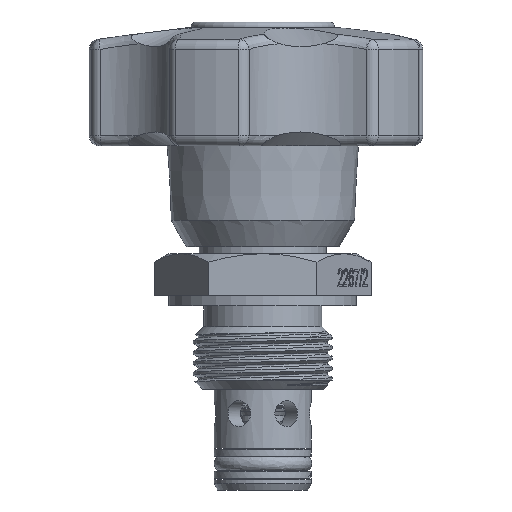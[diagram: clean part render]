
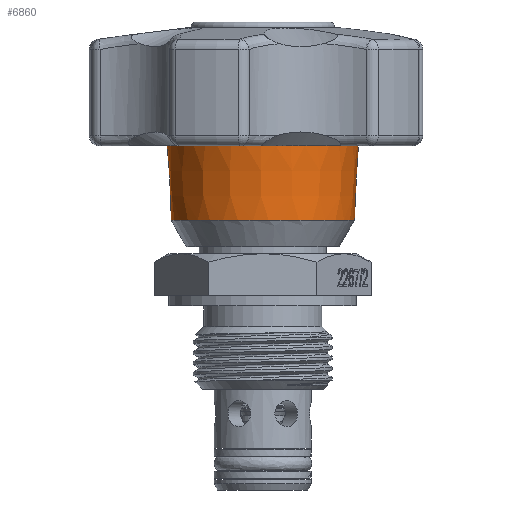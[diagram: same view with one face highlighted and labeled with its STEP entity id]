
A CAD part, left-side view. The second image highlights one B-rep face of the part: STEP entity #6860.
In plain terms, the highlighted conical face has half-angle 3 degrees and reference radius 13 mm.
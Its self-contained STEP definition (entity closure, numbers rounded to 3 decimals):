
#712 = AXIS2_PLACEMENT_3D ( 'NONE', #8282, #12605, #4222 ) ;
#714 = EDGE_CURVE ( 'NONE', #49633, #4186, #16927, .T. ) ;
#1931 = EDGE_CURVE ( 'NONE', #4186, #19687, #19416, .T. ) ;
#2051 = ORIENTED_EDGE ( 'NONE', *, *, #5599, .T. ) ;
#3096 = CIRCLE ( 'NONE', #12020, 13.76 ) ;
#4186 = VERTEX_POINT ( 'NONE', #34592 ) ;
#4222 = DIRECTION ( 'NONE',  ( 1., 0., 0. ) ) ;
#4840 = CARTESIAN_POINT ( 'NONE',  ( 0., 13.76, 17. ) ) ;
#5574 = AXIS2_PLACEMENT_3D ( 'NONE', #40978, #45043, #41228 ) ;
#5599 = EDGE_CURVE ( 'NONE', #42767, #26642, #3096, .T. ) ;
#6373 = CARTESIAN_POINT ( 'NONE',  ( 0., 0., 27.69 ) ) ;
#6860 = ADVANCED_FACE ( 'NONE', ( #39048 ), #21816, .T. ) ;
#8282 = CARTESIAN_POINT ( 'NONE',  ( 0., 0., 31.5 ) ) ;
#8673 = CARTESIAN_POINT ( 'NONE',  ( -13.086, 4.252, 17. ) ) ;
#10169 = CARTESIAN_POINT ( 'NONE',  ( 12.341, -6.085, 17. ) ) ;
#10316 = B_SPLINE_CURVE_WITH_KNOTS ( 'NONE', 3,
 ( #37023, #40106, #40608, #21043 ),
 .UNSPECIFIED., .F., .F.,
 ( 4, 4 ),
 ( 0.004, 0.015 ),
 .UNSPECIFIED. ) ;
#10676 = ORIENTED_EDGE ( 'NONE', *, *, #46951, .T. ) ;
#11506 = CARTESIAN_POINT ( 'NONE',  ( 0., 0., 17. ) ) ;
#12020 = AXIS2_PLACEMENT_3D ( 'NONE', #11506, #41522, #45843 ) ;
#12508 = DIRECTION ( 'NONE',  ( 1., 0., 0. ) ) ;
#12605 = DIRECTION ( 'NONE',  ( 0., 0., -1. ) ) ;
#13251 = CARTESIAN_POINT ( 'NONE',  ( 12.341, 6.085, 17. ) ) ;
#16704 = ORIENTED_EDGE ( 'NONE', *, *, #714, .T. ) ;
#16927 = CIRCLE ( 'NONE', #5574, 13.76 ) ;
#18934 = CIRCLE ( 'NONE', #22195, 13.2 ) ;
#19044 = AXIS2_PLACEMENT_3D ( 'NONE', #30984, #26941, #27182 ) ;
#19416 = CIRCLE ( 'NONE', #20213, 13.76 ) ;
#19629 = AXIS2_PLACEMENT_3D ( 'NONE', #34183, #38256, #12508 ) ;
#19687 = VERTEX_POINT ( 'NONE', #10169 ) ;
#20213 = AXIS2_PLACEMENT_3D ( 'NONE', #43587, #39773, #28347 ) ;
#21043 = CARTESIAN_POINT ( 'NONE',  ( 12.341, 6.085, 17. ) ) ;
#21816 = CONICAL_SURFACE ( 'NONE', #712, 13., 0.052 ) ;
#21883 = DIRECTION ( 'NONE',  ( 0., 0., -1. ) ) ;
#22195 = AXIS2_PLACEMENT_3D ( 'NONE', #6373, #21883, #37383 ) ;
#22601 = CARTESIAN_POINT ( 'NONE',  ( 12.341, -6.085, 17. ) ) ;
#23108 = CARTESIAN_POINT ( 'NONE',  ( 11.813, -6.299, 24.125 ) ) ;
#24554 = CIRCLE ( 'NONE', #19629, 13.76 ) ;
#26441 = ORIENTED_EDGE ( 'NONE', *, *, #34337, .T. ) ;
#26642 = VERTEX_POINT ( 'NONE', #4840 ) ;
#26941 = DIRECTION ( 'NONE',  ( 0., 0., 1. ) ) ;
#27068 = EDGE_CURVE ( 'NONE', #36740, #49633, #43382, .T. ) ;
#27129 = ORIENTED_EDGE ( 'NONE', *, *, #45053, .T. ) ;
#27182 = DIRECTION ( 'NONE',  ( 1., 0., 0. ) ) ;
#28347 = DIRECTION ( 'NONE',  ( 1., 0., 0. ) ) ;
#29368 = VERTEX_POINT ( 'NONE', #37790 ) ;
#30984 = CARTESIAN_POINT ( 'NONE',  ( 0., 0., 17. ) ) ;
#31987 = B_SPLINE_CURVE_WITH_KNOTS ( 'NONE', 3,
 ( #22601, #34772, #23108, #50277 ),
 .UNSPECIFIED., .F., .F.,
 ( 4, 4 ),
 ( 0., 0.011 ),
 .UNSPECIFIED. ) ;
#34183 = CARTESIAN_POINT ( 'NONE',  ( 0., 0., 17. ) ) ;
#34337 = EDGE_CURVE ( 'NONE', #19687, #42133, #31987, .T. ) ;
#34592 = CARTESIAN_POINT ( 'NONE',  ( 8.088, -11.132, 17. ) ) ;
#34772 = CARTESIAN_POINT ( 'NONE',  ( 12.066, -6.221, 20.561 ) ) ;
#36740 = VERTEX_POINT ( 'NONE', #8673 ) ;
#37023 = CARTESIAN_POINT ( 'NONE',  ( 11.572, 6.349, 27.69 ) ) ;
#37383 = DIRECTION ( 'NONE',  ( -1., 0., 0. ) ) ;
#37790 = CARTESIAN_POINT ( 'NONE',  ( 11.572, 6.349, 27.69 ) ) ;
#38256 = DIRECTION ( 'NONE',  ( 0., 0., 1. ) ) ;
#39048 = FACE_OUTER_BOUND ( 'NONE', #49014, .T. ) ;
#39417 = CARTESIAN_POINT ( 'NONE',  ( -8.088, -11.132, 17. ) ) ;
#39773 = DIRECTION ( 'NONE',  ( 0., 0., 1. ) ) ;
#40106 = CARTESIAN_POINT ( 'NONE',  ( 11.813, 6.299, 24.125 ) ) ;
#40155 = ORIENTED_EDGE ( 'NONE', *, *, #1931, .T. ) ;
#40608 = CARTESIAN_POINT ( 'NONE',  ( 12.066, 6.221, 20.561 ) ) ;
#40978 = CARTESIAN_POINT ( 'NONE',  ( 0., 0., 17. ) ) ;
#41228 = DIRECTION ( 'NONE',  ( 1., 0., 0. ) ) ;
#41522 = DIRECTION ( 'NONE',  ( 0., 0., 1. ) ) ;
#42133 = VERTEX_POINT ( 'NONE', #47794 ) ;
#42508 = EDGE_CURVE ( 'NONE', #26642, #36740, #24554, .T. ) ;
#42767 = VERTEX_POINT ( 'NONE', #13251 ) ;
#43382 = CIRCLE ( 'NONE', #19044, 13.76 ) ;
#43587 = CARTESIAN_POINT ( 'NONE',  ( 0., 0., 17. ) ) ;
#45014 = ORIENTED_EDGE ( 'NONE', *, *, #27068, .T. ) ;
#45043 = DIRECTION ( 'NONE',  ( 0., 0., 1. ) ) ;
#45053 = EDGE_CURVE ( 'NONE', #42133, #29368, #18934, .T. ) ;
#45843 = DIRECTION ( 'NONE',  ( 1., 0., 0. ) ) ;
#46951 = EDGE_CURVE ( 'NONE', #29368, #42767, #10316, .T. ) ;
#47794 = CARTESIAN_POINT ( 'NONE',  ( 11.572, -6.349, 27.69 ) ) ;
#49014 = EDGE_LOOP ( 'NONE', ( #26441, #27129, #10676, #2051, #49035, #45014, #16704, #40155 ) ) ;
#49035 = ORIENTED_EDGE ( 'NONE', *, *, #42508, .T. ) ;
#49633 = VERTEX_POINT ( 'NONE', #39417 ) ;
#50277 = CARTESIAN_POINT ( 'NONE',  ( 11.572, -6.349, 27.69 ) ) ;
